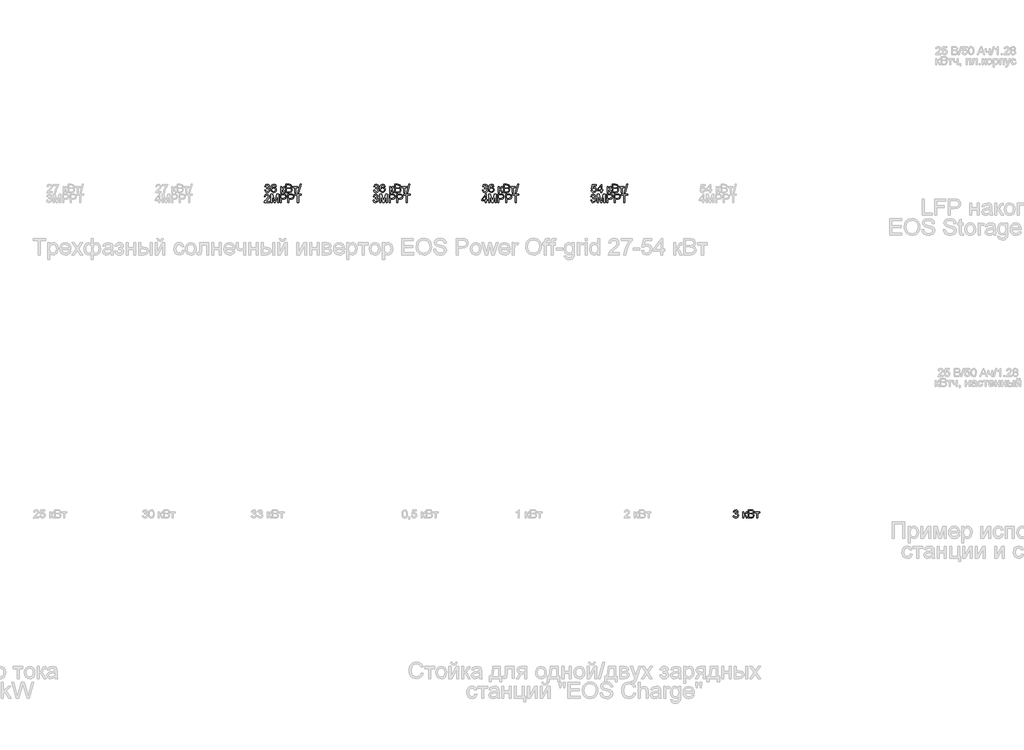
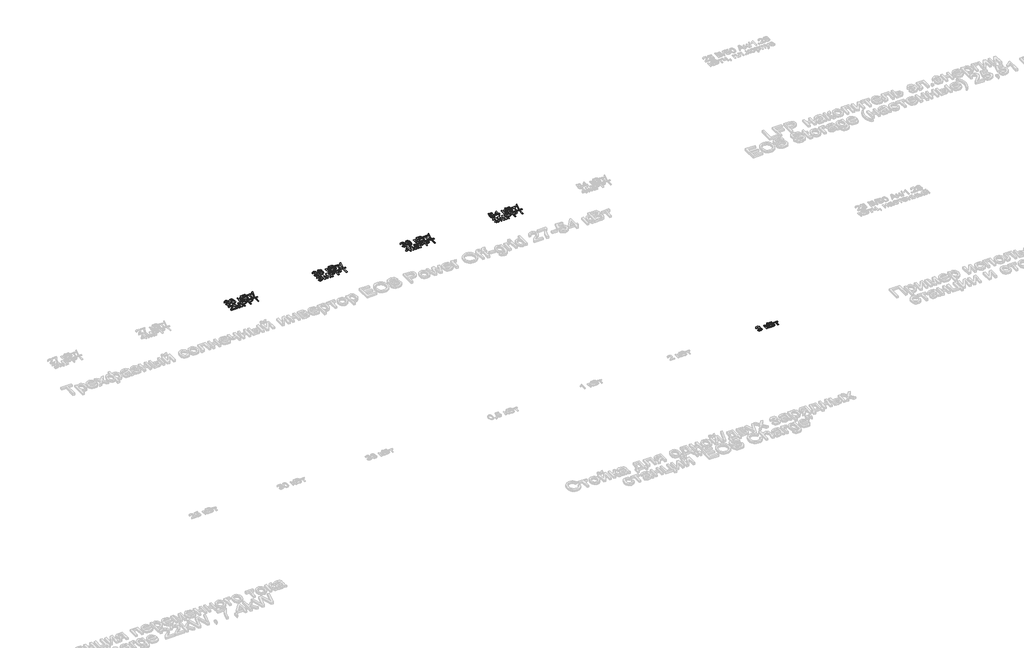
# One storey, part 12 of 26: 5 proxies.
"""IFC4 building model written with IfcOpenShell, lengths in millimetres."""

from ifc_helpers import new_model, si_unit, origin, origin_with_axes, place, context, project, spatial, polyline, outline, extrude, element, save

model = new_model("IFC4")

# Units and contexts
model_context = context("Model", 3, world=origin())
ifc_project = project(units=[si_unit("LENGTHUNIT", "METRE", prefix="MILLI")], contexts=[model_context])

# Site, building, storey
site = spatial("IfcSite", under=ifc_project)
building = spatial("IfcBuilding", under=site)
storey = spatial("IfcBuildingStorey", under=building, Name="Этаж 01", Elevation=0.0)

# Proxies
placement = place(None, origin())
element("IfcBuildingElementProxy", 1, Name="75 мм Arial", ObjectType="75 мм Arial", at=placement, inside=storey, context=model_context, shape_type="SweptSolid", body=[
    extrude(outline(polyline([(12511.8689754, -19634.6892694), (12521.2867545, -19633.512047), (12526.4830876, -19643.4264667), (12536.2043694, -19646.4614932), (12547.6454994, -19642.2860326), (12551.8945365, -19631.9485485), (12547.6822876, -19622.2088727), (12536.9769216, -19618.3553088), (12530.3734397, -19619.3853784), (12531.4219034, -19609.9675993), (12543.6171916, -19607.3740312), (12548.3628693, -19599.0598981), (12544.9231726, -19591.6930612), (12536.0572166, -19588.7775964), (12527.0808959, -19591.7206523), (12522.4639768, -19600.5498202), (12513.0461978, -19599.3725978), (12520.7533256, -19584.6021357), (12535.7261228, -19579.3598173), (12547.0844794, -19581.9441883), (12555.0307305, -19589.0075226), (12557.7806484, -19598.5080751), (12555.1686862, -19607.1900902), (12547.4431643, -19613.42569), (12557.707072, -19619.863625), (12561.3123155, -19632.1140954), (12559.5096938, -19641.2927512), (12554.1018284, -19648.9630908), (12545.9394467, -19654.1502269), (12535.8732756, -19655.8792723), (12526.7681962, -19654.4031458), (12519.355374, -19649.9747663), (12514.2004275, -19643.201139), (12511.8689754, -19634.6892694)])), origin_with_axes(), (0.0, 0.0, 1.0), 5.0),
    extrude(outline(polyline([(12601.3378766, -19599.3725978), (12610.7556557, -19599.3725978), (12610.7556557, -19622.9170455), (12617.0648319, -19621.2247883), (12622.2335739, -19611.3655509), (12626.5285962, -19602.8582797), (12630.3177808, -19600.0899677), (12637.2063711, -19599.3725978), (12639.0089929, -19599.3725978), (12639.0089929, -19608.8455592), (12636.4706071, -19608.7903769), (12631.8720822, -19609.7836583), (12628.6347207, -19615.9824699), (12624.8363391, -19622.6871193), (12619.5112472, -19625.9704661), (12631.283471, -19637.3564138), (12641.3634377, -19654.7020499), (12630.6580716, -19654.7020499), (12620.7804401, -19637.7242958), (12615.8140331, -19630.5413999), (12610.7556557, -19628.8031574), (12610.7556557, -19654.7020499), (12601.3378766, -19654.7020499), (12601.3378766, -19599.3725978)])), origin_with_axes(), (0.0, 0.0, 1.0), 5.0),
    extrude(outline(polyline([(12648.426772, -19654.7020499), (12648.426772, -19579.3598173), (12677.1767499, -19579.3598173), (12691.2574333, -19581.5763063), (12699.5715664, -19588.3913203), (12702.5790017, -19598.0298285), (12700.049813, -19606.8314053), (12692.4070645, -19613.4992664), (12701.6868878, -19620.5258125), (12704.9334465, -19632.2428541), (12702.7169574, -19642.368806), (12697.2263187, -19649.5792931), (12689.0317472, -19653.4052659), (12676.9560207, -19654.7020499), (12648.426772, -19654.7020499)]), holes=[polyline([(12657.8445511, -19609.9675993), (12675.0430343, -19609.9675993), (12685.0862128, -19609.1582589), (12691.1286746, -19605.672577), (12693.1612226, -19599.5381447), (12691.2666303, -19593.3945154), (12685.8403709, -19589.7616807), (12673.7370533, -19588.7775964), (12657.8445511, -19588.7775964), (12657.8445511, -19609.9675993)]), polyline([(12657.8445511, -19645.2842708), (12677.1583558, -19645.2842708), (12684.1481137, -19644.9163888), (12690.0618168, -19642.8654467), (12693.97976, -19638.680789), (12695.5156674, -19632.3348246), (12693.7130456, -19625.0139729), (12687.8729189, -19620.6453742), (12676.2386508, -19619.3853784), (12657.8445511, -19619.3853784), (12657.8445511, -19645.2842708)])]), origin_with_axes(), (0.0, 0.0, 1.0), 5.0),
    extrude(outline(polyline([(12711.9967808, -19599.3725978), (12756.7312314, -19599.3725978), (12756.7312314, -19608.7903769), (12739.0728956, -19608.7903769), (12739.0728956, -19654.7020499), (12729.6551165, -19654.7020499), (12729.6551165, -19608.7903769), (12711.9967808, -19608.7903769), (12711.9967808, -19599.3725978)])), origin_with_axes(), (0.0, 0.0, 1.0), 5.0),
])
element("IfcBuildingElementProxy", 2, Name="75 мм Arial", ObjectType="75 мм Arial", at=placement, inside=storey, context=model_context, shape_type="SweptSolid", body=[
    extrude(outline(polyline([(8207.5585542, -16641.5042258), (8216.9763333, -16640.3270034), (8222.1726665, -16650.2414232), (8231.8939482, -16653.2764496), (8243.3350782, -16649.100989), (8247.5841153, -16638.7635049), (8243.3718664, -16629.0238291), (8232.6665004, -16625.1702652), (8226.0630186, -16626.2003348), (8227.1114822, -16616.7825557), (8239.3067704, -16614.1889876), (8244.0524481, -16605.8748546), (8240.6127515, -16598.5080176), (8231.7467954, -16595.5925528), (8222.7704747, -16598.5356087), (8218.1535557, -16607.3647766), (8208.7357766, -16606.1875542), (8216.4429044, -16591.4170921), (8231.4157016, -16586.1747737), (8242.7740582, -16588.7591447), (8250.7203093, -16595.822479), (8253.4702272, -16605.3230316), (8250.858265, -16614.0050466), (8243.1327431, -16620.2406465), (8253.3966508, -16626.6785814), (8257.0018943, -16638.9290518), (8255.1992726, -16648.1077076), (8249.7914072, -16655.7780472), (8241.6290255, -16660.9651833), (8231.5628544, -16662.6942287), (8222.457775, -16661.2181022), (8215.0449528, -16656.7897227), (8209.8900063, -16650.0160954), (8207.5585542, -16641.5042258)])), origin_with_axes(), (0.0, 0.0, 1.0), 5.0),
    extrude(outline(polyline([(8313.5085688, -16606.1875542), (8304.0907897, -16607.3647766), (8300.5223344, -16599.510496), (8291.0861612, -16595.5925528), (8282.5880871, -16597.8734212), (8276.1593492, -16606.4358746), (8273.4830077, -16623.2204906), (8281.7879438, -16615.7065009), (8292.0794426, -16613.2508886), (8300.7798518, -16614.9293502), (8308.0823094, -16619.964735), (8313.0349207, -16627.6580672), (8314.6857912, -16637.310371), (8311.5771883, -16650.3058025), (8303.0239319, -16659.5028524), (8290.681491, -16662.6942287), (8279.9968183, -16660.5789072), (8271.4872479, -16654.2329428), (8265.9207335, -16643.0309361), (8264.0652287, -16626.3474876), (8266.1253678, -16607.5901044), (8272.3057853, -16594.7648183), (8280.7440786, -16588.3222849), (8291.6747724, -16586.1747737), (8306.5555991, -16591.4906685), (8313.5085688, -16606.1875542)]), holes=[polyline([(8273.4830077, -16637.1632182), (8275.6627086, -16645.3210015), (8281.45685, -16651.2439016), (8289.945727, -16653.2764496), (8301.0465662, -16649.0642008), (8305.2680121, -16637.6230707), (8301.1017485, -16626.6693843), (8289.5594509, -16622.6686676), (8278.1643061, -16626.6693843), (8273.4830077, -16637.1632182)])]), origin_with_axes(), (0.0, 0.0, 1.0), 5.0),
    extrude(outline(polyline([(8354.7113523, -16606.1875542), (8364.1291313, -16606.1875542), (8364.1291313, -16629.7320019), (8370.4383076, -16628.0397448), (8375.6070496, -16618.1805073), (8379.9020719, -16609.6732362), (8383.6912564, -16606.9049241), (8390.5798468, -16606.1875542), (8392.3824686, -16606.1875542), (8392.3824686, -16615.6605156), (8389.8440828, -16615.6053333), (8385.2455579, -16616.5986147), (8382.0081963, -16622.7974263), (8378.2098147, -16629.5020757), (8372.8847228, -16632.7854225), (8384.6569467, -16644.1713703), (8394.7369133, -16661.5170063), (8384.0315473, -16661.5170063), (8374.1539157, -16644.5392522), (8369.1875088, -16637.3563563), (8364.1291313, -16635.6181139), (8364.1291313, -16661.5170063), (8354.7113523, -16661.5170063), (8354.7113523, -16606.1875542)])), origin_with_axes(), (0.0, 0.0, 1.0), 5.0),
    extrude(outline(polyline([(8401.8002476, -16661.5170063), (8401.8002476, -16586.1747737), (8430.5502256, -16586.1747737), (8444.6309089, -16588.3912627), (8452.945042, -16595.2062767), (8455.9524773, -16604.844785), (8453.4232886, -16613.6463617), (8445.7805402, -16620.3142229), (8455.0603635, -16627.340769), (8458.3069221, -16639.0578105), (8456.0904331, -16649.1837624), (8450.5997943, -16656.3942495), (8442.4052229, -16660.2202223), (8430.3294964, -16661.5170063), (8401.8002476, -16661.5170063)]), holes=[polyline([(8411.2180267, -16616.7825557), (8428.41651, -16616.7825557), (8438.4596885, -16615.9732153), (8444.5021502, -16612.4875334), (8446.5346983, -16606.3531011), (8444.640106, -16600.2094718), (8439.2138466, -16596.5766371), (8427.1105289, -16595.5925528), (8411.2180267, -16595.5925528), (8411.2180267, -16616.7825557)]), polyline([(8411.2180267, -16652.0992272), (8430.5318315, -16652.0992272), (8437.5215894, -16651.7313453), (8443.4352925, -16649.6804031), (8447.3532357, -16645.4957454), (8448.889143, -16639.149781), (8447.0865213, -16631.8289293), (8441.2463946, -16627.4603306), (8429.6121265, -16626.2003348), (8411.2180267, -16626.2003348), (8411.2180267, -16652.0992272)])]), origin_with_axes(), (0.0, 0.0, 1.0), 5.0),
    extrude(outline(polyline([(8465.3702564, -16606.1875542), (8510.104707, -16606.1875542), (8510.104707, -16615.6053333), (8492.4463713, -16615.6053333), (8492.4463713, -16661.5170063), (8483.0285922, -16661.5170063), (8483.0285922, -16615.6053333), (8465.3702564, -16615.6053333), (8465.3702564, -16606.1875542)])), origin_with_axes(), (0.0, 0.0, 1.0), 5.0),
    extrude(outline(polyline([(8511.2819294, -16661.5170063), (8532.4719323, -16586.1747737), (8540.9700064, -16586.1747737), (8519.7800035, -16661.5170063), (8511.2819294, -16661.5170063)])), origin_with_axes(), (0.0, 0.0, 1.0), 5.0),
    extrude(outline(polyline([(8251.7043936, -16743.5803406), (8251.7043936, -16752.9981197), (8202.2610535, -16752.9981197), (8203.272729, -16746.5050025), (8208.993294, -16736.5078093), (8220.7839119, -16725.5909111), (8237.0442961, -16709.900744), (8241.1093922, -16699.2321661), (8237.2742224, -16690.5961363), (8227.258635, -16687.0736662), (8216.8199834, -16690.5133628), (8212.8560549, -16700.0231124), (8203.4382759, -16698.84589), (8205.7214435, -16689.7362121), (8210.65796, -16683.0821465), (8217.990308, -16679.012452), (8227.4609701, -16677.6558871), (8237.0006101, -16679.1642033), (8244.3191626, -16683.6891518), (8248.9751691, -16690.4489835), (8250.5271712, -16698.661949), (8248.8533082, -16707.5922845), (8243.289093, -16716.8261225), (8229.7970208, -16729.7295835), (8218.962896, -16738.7886776), (8214.713859, -16743.5803406), (8251.7043936, -16743.5803406)])), origin_with_axes(), (0.0, 0.0, 1.0), 5.0),
    extrude(outline(polyline([(8264.6538398, -16752.9981197), (8264.6538398, -16677.6558871), (8280.8590417, -16677.6558871), (8296.2732973, -16730.7596531), (8299.3819002, -16741.8512953), (8302.7480204, -16729.8399481), (8317.9047586, -16677.6558871), (8334.1099605, -16677.6558871), (8334.1099605, -16752.9981197), (8324.6921815, -16752.9981197), (8324.6921815, -16687.0736662), (8305.7646528, -16752.9981197), (8292.9991476, -16752.9981197), (8274.0716189, -16687.0736662), (8274.0716189, -16752.9981197), (8264.6538398, -16752.9981197)])), origin_with_axes(), (0.0, 0.0, 1.0), 5.0),
    extrude(outline(polyline([(8350.5910739, -16752.9981197), (8350.5910739, -16677.6558871), (8378.5133174, -16677.6558871), (8389.7705064, -16678.373257), (8398.921571, -16681.8957271), (8404.8536682, -16689.1797906), (8407.0977484, -16699.4528953), (8405.5825344, -16708.332647), (8401.0368925, -16715.7316736), (8392.5365192, -16720.7256717), (8379.1571108, -16722.3903377), (8360.008853, -16722.3903377), (8360.008853, -16752.9981197), (8350.5910739, -16752.9981197)]), holes=[polyline([(8360.008853, -16712.9725586), (8379.7089338, -16712.9725586), (8393.5780851, -16709.5144679), (8397.6799693, -16699.7839891), (8395.2611452, -16691.9848908), (8388.9059837, -16687.7174597), (8379.4882046, -16687.0736662), (8360.008853, -16687.0736662), (8360.008853, -16712.9725586)])]), origin_with_axes(), (0.0, 0.0, 1.0), 5.0),
    extrude(outline(polyline([(8420.0471946, -16752.9981197), (8420.0471946, -16677.6558871), (8447.969438, -16677.6558871), (8459.2266271, -16678.373257), (8468.3776917, -16681.8957271), (8474.3097889, -16689.1797906), (8476.5538691, -16699.4528953), (8475.0386551, -16708.332647), (8470.4930132, -16715.7316736), (8461.9926398, -16720.7256717), (8448.6132315, -16722.3903377), (8429.4649737, -16722.3903377), (8429.4649737, -16752.9981197), (8420.0471946, -16752.9981197)]), holes=[polyline([(8429.4649737, -16712.9725586), (8449.1650545, -16712.9725586), (8463.0342057, -16709.5144679), (8467.13609, -16699.7839891), (8464.7172659, -16691.9848908), (8458.3621044, -16687.7174597), (8448.9443253, -16687.0736662), (8429.4649737, -16687.0736662), (8429.4649737, -16712.9725586)])]), origin_with_axes(), (0.0, 0.0, 1.0), 5.0),
    extrude(outline(polyline([(8508.3388735, -16752.9981197), (8508.3388735, -16687.0736662), (8483.6172034, -16687.0736662), (8483.6172034, -16677.6558871), (8542.4783226, -16677.6558871), (8542.4783226, -16687.0736662), (8517.7566525, -16687.0736662), (8517.7566525, -16752.9981197), (8508.3388735, -16752.9981197)])), origin_with_axes(), (0.0, 0.0, 1.0), 5.0),
])
element("IfcBuildingElementProxy", 3, Name="75 мм Arial", ObjectType="75 мм Arial", at=placement, inside=storey, context=model_context, shape_type="SweptSolid", body=[
    extrude(outline(polyline([(9207.5585542, -16641.5042258), (9216.9763333, -16640.3270034), (9222.1726665, -16650.2414232), (9231.8939482, -16653.2764496), (9243.3350782, -16649.100989), (9247.5841153, -16638.7635049), (9243.3718664, -16629.0238291), (9232.6665004, -16625.1702652), (9226.0630186, -16626.2003348), (9227.1114822, -16616.7825557), (9239.3067704, -16614.1889876), (9244.0524481, -16605.8748546), (9240.6127515, -16598.5080176), (9231.7467954, -16595.5925528), (9222.7704747, -16598.5356087), (9218.1535557, -16607.3647766), (9208.7357766, -16606.1875542), (9216.4429044, -16591.4170921), (9231.4157016, -16586.1747737), (9242.7740582, -16588.7591447), (9250.7203093, -16595.822479), (9253.4702272, -16605.3230316), (9250.858265, -16614.0050466), (9243.1327431, -16620.2406465), (9253.3966508, -16626.6785814), (9257.0018943, -16638.9290518), (9255.1992726, -16648.1077076), (9249.7914072, -16655.7780472), (9241.6290255, -16660.9651833), (9231.5628544, -16662.6942287), (9222.457775, -16661.2181022), (9215.0449528, -16656.7897227), (9209.8900063, -16650.0160954), (9207.5585542, -16641.5042258)])), origin_with_axes(), (0.0, 0.0, 1.0), 5.0),
    extrude(outline(polyline([(9313.5085688, -16606.1875542), (9304.0907897, -16607.3647766), (9300.5223344, -16599.510496), (9291.0861612, -16595.5925528), (9282.5880871, -16597.8734212), (9276.1593492, -16606.4358746), (9273.4830077, -16623.2204906), (9281.7879438, -16615.7065009), (9292.0794426, -16613.2508886), (9300.7798518, -16614.9293502), (9308.0823094, -16619.964735), (9313.0349207, -16627.6580672), (9314.6857912, -16637.310371), (9311.5771883, -16650.3058025), (9303.0239319, -16659.5028524), (9290.681491, -16662.6942287), (9279.9968183, -16660.5789072), (9271.4872479, -16654.2329428), (9265.9207335, -16643.0309361), (9264.0652287, -16626.3474876), (9266.1253678, -16607.5901044), (9272.3057853, -16594.7648183), (9280.7440786, -16588.3222849), (9291.6747724, -16586.1747737), (9306.5555991, -16591.4906685), (9313.5085688, -16606.1875542)]), holes=[polyline([(9273.4830077, -16637.1632182), (9275.6627086, -16645.3210015), (9281.45685, -16651.2439016), (9289.945727, -16653.2764496), (9301.0465662, -16649.0642008), (9305.2680121, -16637.6230707), (9301.1017485, -16626.6693843), (9289.5594509, -16622.6686676), (9278.1643061, -16626.6693843), (9273.4830077, -16637.1632182)])]), origin_with_axes(), (0.0, 0.0, 1.0), 5.0),
    extrude(outline(polyline([(9354.7113523, -16606.1875542), (9364.1291313, -16606.1875542), (9364.1291313, -16629.7320019), (9370.4383076, -16628.0397448), (9375.6070496, -16618.1805073), (9379.9020719, -16609.6732362), (9383.6912564, -16606.9049241), (9390.5798468, -16606.1875542), (9392.3824686, -16606.1875542), (9392.3824686, -16615.6605156), (9389.8440828, -16615.6053333), (9385.2455579, -16616.5986147), (9382.0081963, -16622.7974263), (9378.2098147, -16629.5020757), (9372.8847228, -16632.7854225), (9384.6569467, -16644.1713703), (9394.7369133, -16661.5170063), (9384.0315473, -16661.5170063), (9374.1539157, -16644.5392522), (9369.1875088, -16637.3563563), (9364.1291313, -16635.6181139), (9364.1291313, -16661.5170063), (9354.7113523, -16661.5170063), (9354.7113523, -16606.1875542)])), origin_with_axes(), (0.0, 0.0, 1.0), 5.0),
    extrude(outline(polyline([(9401.8002476, -16661.5170063), (9401.8002476, -16586.1747737), (9430.5502256, -16586.1747737), (9444.6309089, -16588.3912627), (9452.945042, -16595.2062767), (9455.9524773, -16604.844785), (9453.4232886, -16613.6463617), (9445.7805402, -16620.3142229), (9455.0603635, -16627.340769), (9458.3069221, -16639.0578105), (9456.0904331, -16649.1837624), (9450.5997943, -16656.3942495), (9442.4052229, -16660.2202223), (9430.3294964, -16661.5170063), (9401.8002476, -16661.5170063)]), holes=[polyline([(9411.2180267, -16616.7825557), (9428.41651, -16616.7825557), (9438.4596885, -16615.9732153), (9444.5021502, -16612.4875334), (9446.5346983, -16606.3531011), (9444.640106, -16600.2094718), (9439.2138466, -16596.5766371), (9427.1105289, -16595.5925528), (9411.2180267, -16595.5925528), (9411.2180267, -16616.7825557)]), polyline([(9411.2180267, -16652.0992272), (9430.5318315, -16652.0992272), (9437.5215894, -16651.7313453), (9443.4352925, -16649.6804031), (9447.3532357, -16645.4957454), (9448.889143, -16639.149781), (9447.0865213, -16631.8289293), (9441.2463946, -16627.4603306), (9429.6121265, -16626.2003348), (9411.2180267, -16626.2003348), (9411.2180267, -16652.0992272)])]), origin_with_axes(), (0.0, 0.0, 1.0), 5.0),
    extrude(outline(polyline([(9465.3702564, -16606.1875542), (9510.104707, -16606.1875542), (9510.104707, -16615.6053333), (9492.4463713, -16615.6053333), (9492.4463713, -16661.5170063), (9483.0285922, -16661.5170063), (9483.0285922, -16615.6053333), (9465.3702564, -16615.6053333), (9465.3702564, -16606.1875542)])), origin_with_axes(), (0.0, 0.0, 1.0), 5.0),
    extrude(outline(polyline([(9511.2819294, -16661.5170063), (9532.4719323, -16586.1747737), (9540.9700064, -16586.1747737), (9519.7800035, -16661.5170063), (9511.2819294, -16661.5170063)])), origin_with_axes(), (0.0, 0.0, 1.0), 5.0),
    extrude(outline(polyline([(9203.4382759, -16732.9853392), (9212.8560549, -16731.8081168), (9218.0523881, -16741.7225366), (9227.7736698, -16744.757563), (9239.2147999, -16740.5821024), (9243.4638369, -16730.2446183), (9239.2515881, -16720.5049425), (9228.546222, -16716.6513786), (9221.9427402, -16717.6814482), (9222.9912039, -16708.2636691), (9235.186492, -16705.670101), (9239.9321698, -16697.3559679), (9236.4924731, -16689.989131), (9227.626517, -16687.0736662), (9218.6501964, -16690.0167221), (9214.0332773, -16698.84589), (9204.6154982, -16697.6686676), (9212.322626, -16682.8982055), (9227.2954232, -16677.6558871), (9238.6537798, -16680.2402581), (9246.6000309, -16687.3035924), (9249.3499488, -16696.8041449), (9246.7379867, -16705.48616), (9239.0124648, -16711.7217598), (9249.2763724, -16718.1596948), (9252.881616, -16730.4101652), (9251.0789942, -16739.588821), (9245.6711289, -16747.2591606), (9237.5087471, -16752.4462967), (9227.442576, -16754.1753421), (9218.3374967, -16752.6992156), (9210.9246745, -16748.2708361), (9205.769728, -16741.4972088), (9203.4382759, -16732.9853392)])), origin_with_axes(), (0.0, 0.0, 1.0), 5.0),
    extrude(outline(polyline([(9264.6538398, -16752.9981197), (9264.6538398, -16677.6558871), (9280.8590417, -16677.6558871), (9296.2732973, -16730.7596531), (9299.3819002, -16741.8512953), (9302.7480204, -16729.8399481), (9317.9047586, -16677.6558871), (9334.1099605, -16677.6558871), (9334.1099605, -16752.9981197), (9324.6921815, -16752.9981197), (9324.6921815, -16687.0736662), (9305.7646528, -16752.9981197), (9292.9991476, -16752.9981197), (9274.0716189, -16687.0736662), (9274.0716189, -16752.9981197), (9264.6538398, -16752.9981197)])), origin_with_axes(), (0.0, 0.0, 1.0), 5.0),
    extrude(outline(polyline([(9350.5910739, -16752.9981197), (9350.5910739, -16677.6558871), (9378.5133174, -16677.6558871), (9389.7705064, -16678.373257), (9398.921571, -16681.8957271), (9404.8536682, -16689.1797906), (9407.0977484, -16699.4528953), (9405.5825344, -16708.332647), (9401.0368925, -16715.7316736), (9392.5365192, -16720.7256717), (9379.1571108, -16722.3903377), (9360.008853, -16722.3903377), (9360.008853, -16752.9981197), (9350.5910739, -16752.9981197)]), holes=[polyline([(9360.008853, -16712.9725586), (9379.7089338, -16712.9725586), (9393.5780851, -16709.5144679), (9397.6799693, -16699.7839891), (9395.2611452, -16691.9848908), (9388.9059837, -16687.7174597), (9379.4882046, -16687.0736662), (9360.008853, -16687.0736662), (9360.008853, -16712.9725586)])]), origin_with_axes(), (0.0, 0.0, 1.0), 5.0),
    extrude(outline(polyline([(9420.0471946, -16752.9981197), (9420.0471946, -16677.6558871), (9447.969438, -16677.6558871), (9459.2266271, -16678.373257), (9468.3776917, -16681.8957271), (9474.3097889, -16689.1797906), (9476.5538691, -16699.4528953), (9475.0386551, -16708.332647), (9470.4930132, -16715.7316736), (9461.9926398, -16720.7256717), (9448.6132315, -16722.3903377), (9429.4649737, -16722.3903377), (9429.4649737, -16752.9981197), (9420.0471946, -16752.9981197)]), holes=[polyline([(9429.4649737, -16712.9725586), (9449.1650545, -16712.9725586), (9463.0342057, -16709.5144679), (9467.13609, -16699.7839891), (9464.7172659, -16691.9848908), (9458.3621044, -16687.7174597), (9448.9443253, -16687.0736662), (9429.4649737, -16687.0736662), (9429.4649737, -16712.9725586)])]), origin_with_axes(), (0.0, 0.0, 1.0), 5.0),
    extrude(outline(polyline([(9508.3388735, -16752.9981197), (9508.3388735, -16687.0736662), (9483.6172034, -16687.0736662), (9483.6172034, -16677.6558871), (9542.4783226, -16677.6558871), (9542.4783226, -16687.0736662), (9517.7566525, -16687.0736662), (9517.7566525, -16752.9981197), (9508.3388735, -16752.9981197)])), origin_with_axes(), (0.0, 0.0, 1.0), 5.0),
])
element("IfcBuildingElementProxy", 4, Name="75 мм Arial", ObjectType="75 мм Arial", at=placement, inside=storey, context=model_context, shape_type="SweptSolid", body=[
    extrude(outline(polyline([(10207.5585542, -16641.5042258), (10216.9763333, -16640.3270034), (10222.1726665, -16650.2414232), (10231.8939482, -16653.2764496), (10243.3350782, -16649.100989), (10247.5841153, -16638.7635049), (10243.3718664, -16629.0238291), (10232.6665004, -16625.1702652), (10226.0630186, -16626.2003348), (10227.1114822, -16616.7825557), (10239.3067704, -16614.1889876), (10244.0524481, -16605.8748546), (10240.6127515, -16598.5080176), (10231.7467954, -16595.5925528), (10222.7704747, -16598.5356087), (10218.1535557, -16607.3647766), (10208.7357766, -16606.1875542), (10216.4429044, -16591.4170921), (10231.4157016, -16586.1747737), (10242.7740582, -16588.7591447), (10250.7203093, -16595.822479), (10253.4702272, -16605.3230316), (10250.858265, -16614.0050466), (10243.1327431, -16620.2406465), (10253.3966508, -16626.6785814), (10257.0018943, -16638.9290518), (10255.1992726, -16648.1077076), (10249.7914072, -16655.7780472), (10241.6290255, -16660.9651833), (10231.5628544, -16662.6942287), (10222.457775, -16661.2181022), (10215.0449528, -16656.7897227), (10209.8900063, -16650.0160954), (10207.5585542, -16641.5042258)])), origin_with_axes(), (0.0, 0.0, 1.0), 5.0),
    extrude(outline(polyline([(10313.5085688, -16606.1875542), (10304.0907897, -16607.3647766), (10300.5223344, -16599.510496), (10291.0861612, -16595.5925528), (10282.5880871, -16597.8734212), (10276.1593492, -16606.4358746), (10273.4830077, -16623.2204906), (10281.7879438, -16615.7065009), (10292.0794426, -16613.2508886), (10300.7798518, -16614.9293502), (10308.0823094, -16619.964735), (10313.0349207, -16627.6580672), (10314.6857912, -16637.310371), (10311.5771883, -16650.3058025), (10303.0239319, -16659.5028524), (10290.681491, -16662.6942287), (10279.9968183, -16660.5789072), (10271.4872479, -16654.2329428), (10265.9207335, -16643.0309361), (10264.0652287, -16626.3474876), (10266.1253678, -16607.5901044), (10272.3057853, -16594.7648183), (10280.7440786, -16588.3222849), (10291.6747724, -16586.1747737), (10306.5555991, -16591.4906685), (10313.5085688, -16606.1875542)]), holes=[polyline([(10273.4830077, -16637.1632182), (10275.6627086, -16645.3210015), (10281.45685, -16651.2439016), (10289.945727, -16653.2764496), (10301.0465662, -16649.0642008), (10305.2680121, -16637.6230707), (10301.1017485, -16626.6693843), (10289.5594509, -16622.6686676), (10278.1643061, -16626.6693843), (10273.4830077, -16637.1632182)])]), origin_with_axes(), (0.0, 0.0, 1.0), 5.0),
    extrude(outline(polyline([(10354.7113523, -16606.1875542), (10364.1291313, -16606.1875542), (10364.1291313, -16629.7320019), (10370.4383076, -16628.0397448), (10375.6070496, -16618.1805073), (10379.9020719, -16609.6732362), (10383.6912564, -16606.9049241), (10390.5798468, -16606.1875542), (10392.3824686, -16606.1875542), (10392.3824686, -16615.6605156), (10389.8440828, -16615.6053333), (10385.2455579, -16616.5986147), (10382.0081963, -16622.7974263), (10378.2098147, -16629.5020757), (10372.8847228, -16632.7854225), (10384.6569467, -16644.1713703), (10394.7369133, -16661.5170063), (10384.0315473, -16661.5170063), (10374.1539157, -16644.5392522), (10369.1875088, -16637.3563563), (10364.1291313, -16635.6181139), (10364.1291313, -16661.5170063), (10354.7113523, -16661.5170063), (10354.7113523, -16606.1875542)])), origin_with_axes(), (0.0, 0.0, 1.0), 5.0),
    extrude(outline(polyline([(10401.8002476, -16661.5170063), (10401.8002476, -16586.1747737), (10430.5502256, -16586.1747737), (10444.6309089, -16588.3912627), (10452.945042, -16595.2062767), (10455.9524773, -16604.844785), (10453.4232886, -16613.6463617), (10445.7805402, -16620.3142229), (10455.0603635, -16627.340769), (10458.3069221, -16639.0578105), (10456.0904331, -16649.1837624), (10450.5997943, -16656.3942495), (10442.4052229, -16660.2202223), (10430.3294964, -16661.5170063), (10401.8002476, -16661.5170063)]), holes=[polyline([(10411.2180267, -16616.7825557), (10428.41651, -16616.7825557), (10438.4596885, -16615.9732153), (10444.5021502, -16612.4875334), (10446.5346983, -16606.3531011), (10444.640106, -16600.2094718), (10439.2138466, -16596.5766371), (10427.1105289, -16595.5925528), (10411.2180267, -16595.5925528), (10411.2180267, -16616.7825557)]), polyline([(10411.2180267, -16652.0992272), (10430.5318315, -16652.0992272), (10437.5215894, -16651.7313453), (10443.4352925, -16649.6804031), (10447.3532357, -16645.4957454), (10448.889143, -16639.149781), (10447.0865213, -16631.8289293), (10441.2463946, -16627.4603306), (10429.6121265, -16626.2003348), (10411.2180267, -16626.2003348), (10411.2180267, -16652.0992272)])]), origin_with_axes(), (0.0, 0.0, 1.0), 5.0),
    extrude(outline(polyline([(10465.3702564, -16606.1875542), (10510.104707, -16606.1875542), (10510.104707, -16615.6053333), (10492.4463713, -16615.6053333), (10492.4463713, -16661.5170063), (10483.0285922, -16661.5170063), (10483.0285922, -16615.6053333), (10465.3702564, -16615.6053333), (10465.3702564, -16606.1875542)])), origin_with_axes(), (0.0, 0.0, 1.0), 5.0),
    extrude(outline(polyline([(10511.2819294, -16661.5170063), (10532.4719323, -16586.1747737), (10540.9700064, -16586.1747737), (10519.7800035, -16661.5170063), (10511.2819294, -16661.5170063)])), origin_with_axes(), (0.0, 0.0, 1.0), 5.0),
    extrude(outline(polyline([(10234.0460578, -16752.9981197), (10234.0460578, -16735.3397839), (10199.9066087, -16735.3397839), (10199.9066087, -16725.9220049), (10236.4005026, -16678.8331095), (10243.4638369, -16678.8331095), (10243.4638369, -16725.9220049), (10252.881616, -16725.9220049), (10252.881616, -16735.3397839), (10243.4638369, -16735.3397839), (10243.4638369, -16752.9981197), (10234.0460578, -16752.9981197)]), holes=[polyline([(10234.0460578, -16725.9220049), (10234.0460578, -16696.822539), (10211.4948915, -16725.9220049), (10234.0460578, -16725.9220049)])]), origin_with_axes(), (0.0, 0.0, 1.0), 5.0),
    extrude(outline(polyline([(10264.6538398, -16752.9981197), (10264.6538398, -16677.6558871), (10280.8590417, -16677.6558871), (10296.2732973, -16730.7596531), (10299.3819002, -16741.8512953), (10302.7480204, -16729.8399481), (10317.9047586, -16677.6558871), (10334.1099605, -16677.6558871), (10334.1099605, -16752.9981197), (10324.6921815, -16752.9981197), (10324.6921815, -16687.0736662), (10305.7646528, -16752.9981197), (10292.9991476, -16752.9981197), (10274.0716189, -16687.0736662), (10274.0716189, -16752.9981197), (10264.6538398, -16752.9981197)])), origin_with_axes(), (0.0, 0.0, 1.0), 5.0),
    extrude(outline(polyline([(10350.5910739, -16752.9981197), (10350.5910739, -16677.6558871), (10378.5133174, -16677.6558871), (10389.7705064, -16678.373257), (10398.921571, -16681.8957271), (10404.8536682, -16689.1797906), (10407.0977484, -16699.4528953), (10405.5825344, -16708.332647), (10401.0368925, -16715.7316736), (10392.5365192, -16720.7256717), (10379.1571108, -16722.3903377), (10360.008853, -16722.3903377), (10360.008853, -16752.9981197), (10350.5910739, -16752.9981197)]), holes=[polyline([(10360.008853, -16712.9725586), (10379.7089338, -16712.9725586), (10393.5780851, -16709.5144679), (10397.6799693, -16699.7839891), (10395.2611452, -16691.9848908), (10388.9059837, -16687.7174597), (10379.4882046, -16687.0736662), (10360.008853, -16687.0736662), (10360.008853, -16712.9725586)])]), origin_with_axes(), (0.0, 0.0, 1.0), 5.0),
    extrude(outline(polyline([(10420.0471946, -16752.9981197), (10420.0471946, -16677.6558871), (10447.969438, -16677.6558871), (10459.2266271, -16678.373257), (10468.3776917, -16681.8957271), (10474.3097889, -16689.1797906), (10476.5538691, -16699.4528953), (10475.0386551, -16708.332647), (10470.4930132, -16715.7316736), (10461.9926398, -16720.7256717), (10448.6132315, -16722.3903377), (10429.4649737, -16722.3903377), (10429.4649737, -16752.9981197), (10420.0471946, -16752.9981197)]), holes=[polyline([(10429.4649737, -16712.9725586), (10449.1650545, -16712.9725586), (10463.0342057, -16709.5144679), (10467.13609, -16699.7839891), (10464.7172659, -16691.9848908), (10458.3621044, -16687.7174597), (10448.9443253, -16687.0736662), (10429.4649737, -16687.0736662), (10429.4649737, -16712.9725586)])]), origin_with_axes(), (0.0, 0.0, 1.0), 5.0),
    extrude(outline(polyline([(10508.3388735, -16752.9981197), (10508.3388735, -16687.0736662), (10483.6172034, -16687.0736662), (10483.6172034, -16677.6558871), (10542.4783226, -16677.6558871), (10542.4783226, -16687.0736662), (10517.7566525, -16687.0736662), (10517.7566525, -16752.9981197), (10508.3388735, -16752.9981197)])), origin_with_axes(), (0.0, 0.0, 1.0), 5.0),
])
element("IfcBuildingElementProxy", 5, Name="75 мм Arial", ObjectType="75 мм Arial", at=placement, inside=storey, context=model_context, shape_type="SweptSolid", body=[
    extrude(outline(polyline([(11207.5585542, -16641.5042258), (11216.9763333, -16640.3270034), (11221.722011, -16650.029891), (11231.5628544, -16653.2764496), (11243.3718664, -16648.7606981), (11247.5841153, -16636.7769421), (11243.6385809, -16625.5933295), (11231.7100072, -16621.4914452), (11223.4418593, -16623.1285201), (11218.1535557, -16627.3775572), (11208.7357766, -16626.2003348), (11216.9763333, -16587.3519961), (11253.4702272, -16587.3519961), (11253.4702272, -16596.7697752), (11224.5914906, -16596.7697752), (11220.5631827, -16617.5183197), (11234.3403634, -16612.0736662), (11243.1396409, -16613.7613248), (11250.4443978, -16618.8243008), (11255.3625202, -16626.5406256), (11257.0018943, -16636.188331), (11255.5257678, -16645.60611), (11251.0973883, -16653.6627257), (11242.6177083, -16660.436353), (11231.5260662, -16662.6942287), (11222.2761333, -16661.2433941), (11214.9069971, -16656.8908902), (11209.8555174, -16650.1425549), (11207.5585542, -16641.5042258)])), origin_with_axes(), (0.0, 0.0, 1.0), 5.0),
    extrude(outline(polyline([(11295.850233, -16661.5170063), (11295.850233, -16643.8586706), (11261.7107839, -16643.8586706), (11261.7107839, -16634.4408915), (11298.2046778, -16587.3519961), (11305.2680121, -16587.3519961), (11305.2680121, -16634.4408915), (11314.6857912, -16634.4408915), (11314.6857912, -16643.8586706), (11305.2680121, -16643.8586706), (11305.2680121, -16661.5170063), (11295.850233, -16661.5170063)]), holes=[polyline([(11295.850233, -16634.4408915), (11295.850233, -16605.3414257), (11273.2990667, -16634.4408915), (11295.850233, -16634.4408915)])]), origin_with_axes(), (0.0, 0.0, 1.0), 5.0),
    extrude(outline(polyline([(11354.7113523, -16606.1875542), (11364.1291313, -16606.1875542), (11364.1291313, -16629.7320019), (11370.4383076, -16628.0397448), (11375.6070496, -16618.1805073), (11379.9020719, -16609.6732362), (11383.6912564, -16606.9049241), (11390.5798468, -16606.1875542), (11392.3824686, -16606.1875542), (11392.3824686, -16615.6605156), (11389.8440828, -16615.6053333), (11385.2455579, -16616.5986147), (11382.0081963, -16622.7974263), (11378.2098147, -16629.5020757), (11372.8847228, -16632.7854225), (11384.6569467, -16644.1713703), (11394.7369133, -16661.5170063), (11384.0315473, -16661.5170063), (11374.1539157, -16644.5392522), (11369.1875088, -16637.3563563), (11364.1291313, -16635.6181139), (11364.1291313, -16661.5170063), (11354.7113523, -16661.5170063), (11354.7113523, -16606.1875542)])), origin_with_axes(), (0.0, 0.0, 1.0), 5.0),
    extrude(outline(polyline([(11401.8002476, -16661.5170063), (11401.8002476, -16586.1747737), (11430.5502256, -16586.1747737), (11444.6309089, -16588.3912627), (11452.945042, -16595.2062767), (11455.9524773, -16604.844785), (11453.4232886, -16613.6463617), (11445.7805402, -16620.3142229), (11455.0603635, -16627.340769), (11458.3069221, -16639.0578105), (11456.0904331, -16649.1837624), (11450.5997943, -16656.3942495), (11442.4052229, -16660.2202223), (11430.3294964, -16661.5170063), (11401.8002476, -16661.5170063)]), holes=[polyline([(11411.2180267, -16616.7825557), (11428.41651, -16616.7825557), (11438.4596885, -16615.9732153), (11444.5021502, -16612.4875334), (11446.5346983, -16606.3531011), (11444.640106, -16600.2094718), (11439.2138466, -16596.5766371), (11427.1105289, -16595.5925528), (11411.2180267, -16595.5925528), (11411.2180267, -16616.7825557)]), polyline([(11411.2180267, -16652.0992272), (11430.5318315, -16652.0992272), (11437.5215894, -16651.7313453), (11443.4352925, -16649.6804031), (11447.3532357, -16645.4957454), (11448.889143, -16639.149781), (11447.0865213, -16631.8289293), (11441.2463946, -16627.4603306), (11429.6121265, -16626.2003348), (11411.2180267, -16626.2003348), (11411.2180267, -16652.0992272)])]), origin_with_axes(), (0.0, 0.0, 1.0), 5.0),
    extrude(outline(polyline([(11465.3702564, -16606.1875542), (11510.104707, -16606.1875542), (11510.104707, -16615.6053333), (11492.4463713, -16615.6053333), (11492.4463713, -16661.5170063), (11483.0285922, -16661.5170063), (11483.0285922, -16615.6053333), (11465.3702564, -16615.6053333), (11465.3702564, -16606.1875542)])), origin_with_axes(), (0.0, 0.0, 1.0), 5.0),
    extrude(outline(polyline([(11511.2819294, -16661.5170063), (11532.4719323, -16586.1747737), (11540.9700064, -16586.1747737), (11519.7800035, -16661.5170063), (11511.2819294, -16661.5170063)])), origin_with_axes(), (0.0, 0.0, 1.0), 5.0),
    extrude(outline(polyline([(11203.4382759, -16732.9853392), (11212.8560549, -16731.8081168), (11218.0523881, -16741.7225366), (11227.7736698, -16744.757563), (11239.2147999, -16740.5821024), (11243.4638369, -16730.2446183), (11239.2515881, -16720.5049425), (11228.546222, -16716.6513786), (11221.9427402, -16717.6814482), (11222.9912039, -16708.2636691), (11235.186492, -16705.670101), (11239.9321698, -16697.3559679), (11236.4924731, -16689.989131), (11227.626517, -16687.0736662), (11218.6501964, -16690.0167221), (11214.0332773, -16698.84589), (11204.6154982, -16697.6686676), (11212.322626, -16682.8982055), (11227.2954232, -16677.6558871), (11238.6537798, -16680.2402581), (11246.6000309, -16687.3035924), (11249.3499488, -16696.8041449), (11246.7379867, -16705.48616), (11239.0124648, -16711.7217598), (11249.2763724, -16718.1596948), (11252.881616, -16730.4101652), (11251.0789942, -16739.588821), (11245.6711289, -16747.2591606), (11237.5087471, -16752.4462967), (11227.442576, -16754.1753421), (11218.3374967, -16752.6992156), (11210.9246745, -16748.2708361), (11205.769728, -16741.4972088), (11203.4382759, -16732.9853392)])), origin_with_axes(), (0.0, 0.0, 1.0), 5.0),
    extrude(outline(polyline([(11264.6538398, -16752.9981197), (11264.6538398, -16677.6558871), (11280.8590417, -16677.6558871), (11296.2732973, -16730.7596531), (11299.3819002, -16741.8512953), (11302.7480204, -16729.8399481), (11317.9047586, -16677.6558871), (11334.1099605, -16677.6558871), (11334.1099605, -16752.9981197), (11324.6921815, -16752.9981197), (11324.6921815, -16687.0736662), (11305.7646528, -16752.9981197), (11292.9991476, -16752.9981197), (11274.0716189, -16687.0736662), (11274.0716189, -16752.9981197), (11264.6538398, -16752.9981197)])), origin_with_axes(), (0.0, 0.0, 1.0), 5.0),
    extrude(outline(polyline([(11350.5910739, -16752.9981197), (11350.5910739, -16677.6558871), (11378.5133174, -16677.6558871), (11389.7705064, -16678.373257), (11398.921571, -16681.8957271), (11404.8536682, -16689.1797906), (11407.0977484, -16699.4528953), (11405.5825344, -16708.332647), (11401.0368925, -16715.7316736), (11392.5365192, -16720.7256717), (11379.1571108, -16722.3903377), (11360.008853, -16722.3903377), (11360.008853, -16752.9981197), (11350.5910739, -16752.9981197)]), holes=[polyline([(11360.008853, -16712.9725586), (11379.7089338, -16712.9725586), (11393.5780851, -16709.5144679), (11397.6799693, -16699.7839891), (11395.2611452, -16691.9848908), (11388.9059837, -16687.7174597), (11379.4882046, -16687.0736662), (11360.008853, -16687.0736662), (11360.008853, -16712.9725586)])]), origin_with_axes(), (0.0, 0.0, 1.0), 5.0),
    extrude(outline(polyline([(11420.0471946, -16752.9981197), (11420.0471946, -16677.6558871), (11447.969438, -16677.6558871), (11459.2266271, -16678.373257), (11468.3776917, -16681.8957271), (11474.3097889, -16689.1797906), (11476.5538691, -16699.4528953), (11475.0386551, -16708.332647), (11470.4930132, -16715.7316736), (11461.9926398, -16720.7256717), (11448.6132315, -16722.3903377), (11429.4649737, -16722.3903377), (11429.4649737, -16752.9981197), (11420.0471946, -16752.9981197)]), holes=[polyline([(11429.4649737, -16712.9725586), (11449.1650545, -16712.9725586), (11463.0342057, -16709.5144679), (11467.13609, -16699.7839891), (11464.7172659, -16691.9848908), (11458.3621044, -16687.7174597), (11448.9443253, -16687.0736662), (11429.4649737, -16687.0736662), (11429.4649737, -16712.9725586)])]), origin_with_axes(), (0.0, 0.0, 1.0), 5.0),
    extrude(outline(polyline([(11508.3388735, -16752.9981197), (11508.3388735, -16687.0736662), (11483.6172034, -16687.0736662), (11483.6172034, -16677.6558871), (11542.4783226, -16677.6558871), (11542.4783226, -16687.0736662), (11517.7566525, -16687.0736662), (11517.7566525, -16752.9981197), (11508.3388735, -16752.9981197)])), origin_with_axes(), (0.0, 0.0, 1.0), 5.0),
])

save(model, "model.ifc")
